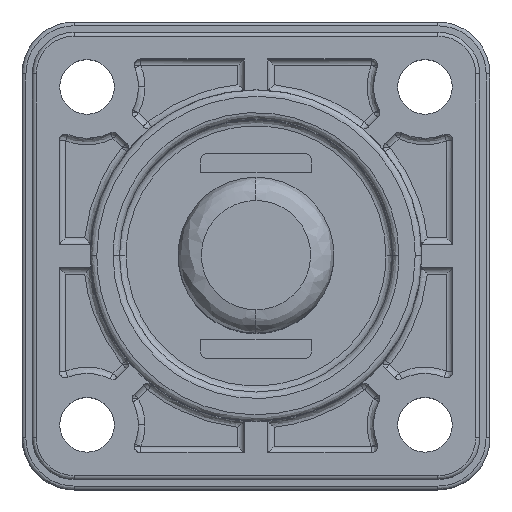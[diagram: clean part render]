
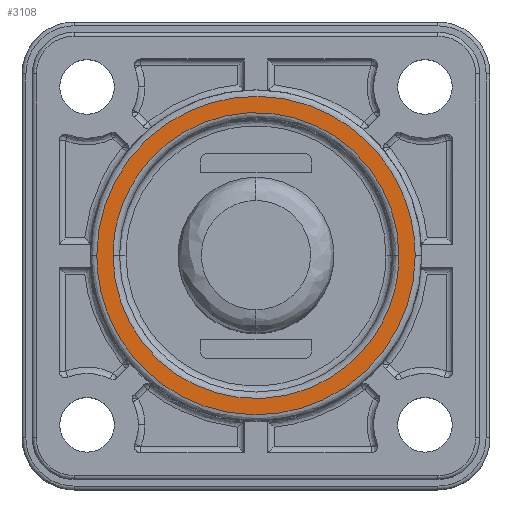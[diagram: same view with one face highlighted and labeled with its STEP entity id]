
A CAD part, top view. The second image highlights one B-rep face of the part: STEP entity #3108.
In plain terms, the highlighted planar face has unit normal (0, 0, 1).
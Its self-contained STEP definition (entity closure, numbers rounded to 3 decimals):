
#447 = VERTEX_POINT ( 'NONE', #2048 ) ;
#659 = CARTESIAN_POINT ( 'NONE',  ( -24.821, -10.536, 16. ) ) ;
#811 = CARTESIAN_POINT ( 'NONE',  ( -26.071, 13.964, 16. ) ) ;
#849 = DIRECTION ( 'NONE',  ( 0., 0., -1. ) ) ;
#1253 = CARTESIAN_POINT ( 'NONE',  ( -24.821, 11.464, 16. ) ) ;
#2048 = CARTESIAN_POINT ( 'NONE',  ( -2.821, -10.536, 16. ) ) ;
#2179 =( BOUNDED_CURVE ( )  B_SPLINE_CURVE ( 3, ( #9434, #10323, #4932, #11208 ),
 .UNSPECIFIED., .F., .F. ) 
 B_SPLINE_CURVE_WITH_KNOTS ( ( 4, 4 ),
 ( 0., 1. ),
 .UNSPECIFIED. ) 
 CURVE ( )  GEOMETRIC_REPRESENTATION_ITEM ( )  RATIONAL_B_SPLINE_CURVE ( ( 1., 0.333, 0.333, 1. ) ) 
 REPRESENTATION_ITEM ( '' )  );
#2278 = CARTESIAN_POINT ( 'NONE',  ( -1.571, -35.036, 16. ) ) ;
#2446 = VERTEX_POINT ( 'NONE', #659 ) ;
#2658 = CARTESIAN_POINT ( 'NONE',  ( -24.321, -10.536, 16. ) ) ;
#2660 = ORIENTED_EDGE ( 'NONE', *, *, #7393, .F. ) ;
#2740 = CARTESIAN_POINT ( 'NONE',  ( -26.071, -10.536, 16. ) ) ;
#2893 = AXIS2_PLACEMENT_3D ( 'NONE', #2658, #849, #7244 ) ;
#2967 = CARTESIAN_POINT ( 'NONE',  ( -1.571, -10.536, 16. ) ) ;
#3108 = ADVANCED_FACE ( 'NONE', ( #5038, #7179 ), #3590, .F. ) ;
#3195 = CARTESIAN_POINT ( 'NONE',  ( -1.571, -10.536, 16. ) ) ;
#3297 = EDGE_CURVE ( 'NONE', #2446, #447, #2179, .T. ) ;
#3590 = PLANE ( 'NONE',  #2893 ) ;
#3591 = CARTESIAN_POINT ( 'NONE',  ( -1.571, -10.536, 16. ) ) ;
#4932 = CARTESIAN_POINT ( 'NONE',  ( -2.821, -32.536, 16. ) ) ;
#5028 =( BOUNDED_CURVE ( )  B_SPLINE_CURVE ( 3, ( #8472, #7594, #1253, #7629 ),
 .UNSPECIFIED., .F., .F. ) 
 B_SPLINE_CURVE_WITH_KNOTS ( ( 4, 4 ),
 ( 0., 1. ),
 .UNSPECIFIED. ) 
 CURVE ( )  GEOMETRIC_REPRESENTATION_ITEM ( )  RATIONAL_B_SPLINE_CURVE ( ( 1., 0.333, 0.333, 1. ) ) 
 REPRESENTATION_ITEM ( '' )  );
#5029 = CARTESIAN_POINT ( 'NONE',  ( -26.071, -10.536, 16. ) ) ;
#5038 = FACE_OUTER_BOUND ( 'NONE', #7091, .T. ) ;
#7091 = EDGE_LOOP ( 'NONE', ( #2660, #10537 ) ) ;
#7179 = FACE_BOUND ( 'NONE', #10025, .T. ) ;
#7230 = VERTEX_POINT ( 'NONE', #2967 ) ;
#7244 = DIRECTION ( 'NONE',  ( -1., 0., 0. ) ) ;
#7393 = EDGE_CURVE ( 'NONE', #10256, #7230, #8785, .T. ) ;
#7594 = CARTESIAN_POINT ( 'NONE',  ( -2.821, 11.464, 16. ) ) ;
#7629 = CARTESIAN_POINT ( 'NONE',  ( -24.821, -10.536, 16. ) ) ;
#8380 = ORIENTED_EDGE ( 'NONE', *, *, #10422, .F. ) ;
#8472 = CARTESIAN_POINT ( 'NONE',  ( -2.821, -10.536, 16. ) ) ;
#8785 =( BOUNDED_CURVE ( )  B_SPLINE_CURVE ( 3, ( #11661, #811, #9004, #3591 ),
 .UNSPECIFIED., .F., .F. ) 
 B_SPLINE_CURVE_WITH_KNOTS ( ( 4, 4 ),
 ( 0., 1. ),
 .UNSPECIFIED. ) 
 CURVE ( )  GEOMETRIC_REPRESENTATION_ITEM ( )  RATIONAL_B_SPLINE_CURVE ( ( 1., 0.333, 0.333, 1. ) ) 
 REPRESENTATION_ITEM ( '' )  );
#8824 = EDGE_CURVE ( 'NONE', #7230, #10256, #11442, .T. ) ;
#9004 = CARTESIAN_POINT ( 'NONE',  ( -1.571, 13.964, 16. ) ) ;
#9434 = CARTESIAN_POINT ( 'NONE',  ( -24.821, -10.536, 16. ) ) ;
#10025 = EDGE_LOOP ( 'NONE', ( #10280, #8380 ) ) ;
#10256 = VERTEX_POINT ( 'NONE', #2740 ) ;
#10280 = ORIENTED_EDGE ( 'NONE', *, *, #3297, .F. ) ;
#10323 = CARTESIAN_POINT ( 'NONE',  ( -24.821, -32.536, 16. ) ) ;
#10418 = CARTESIAN_POINT ( 'NONE',  ( -26.071, -35.036, 16. ) ) ;
#10422 = EDGE_CURVE ( 'NONE', #447, #2446, #5028, .T. ) ;
#10537 = ORIENTED_EDGE ( 'NONE', *, *, #8824, .F. ) ;
#11208 = CARTESIAN_POINT ( 'NONE',  ( -2.821, -10.536, 16. ) ) ;
#11442 =( BOUNDED_CURVE ( )  B_SPLINE_CURVE ( 3, ( #3195, #2278, #10418, #5029 ),
 .UNSPECIFIED., .F., .F. ) 
 B_SPLINE_CURVE_WITH_KNOTS ( ( 4, 4 ),
 ( 0., 1. ),
 .UNSPECIFIED. ) 
 CURVE ( )  GEOMETRIC_REPRESENTATION_ITEM ( )  RATIONAL_B_SPLINE_CURVE ( ( 1., 0.333, 0.333, 1. ) ) 
 REPRESENTATION_ITEM ( '' )  );
#11661 = CARTESIAN_POINT ( 'NONE',  ( -26.071, -10.536, 16. ) ) ;
